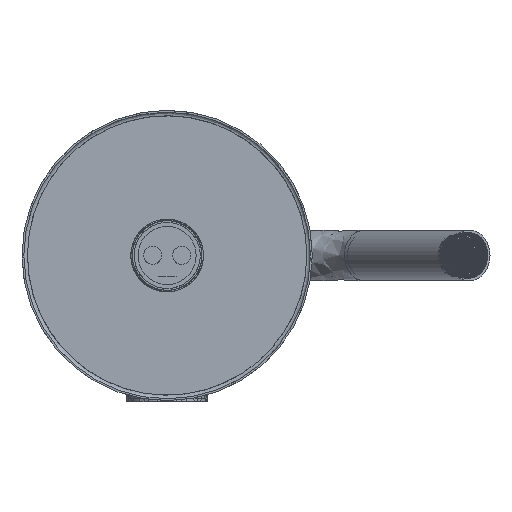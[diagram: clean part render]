
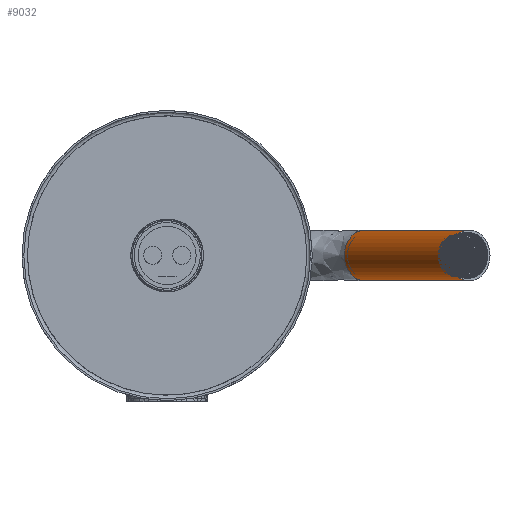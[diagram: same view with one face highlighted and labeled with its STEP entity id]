
A CAD part, front view. The second image highlights one B-rep face of the part: STEP entity #9032.
In plain terms, the highlighted cylindrical face has radius 14 mm (diameter 28 mm), a full revolution.
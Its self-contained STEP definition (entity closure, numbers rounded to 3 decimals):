
#6450 = CARTESIAN_POINT ( 'NONE',  ( 109.149, 1165.115, 0. ) ) ;
#7895 = DIRECTION ( 'NONE',  ( 0.574, -0.819, 0. ) ) ;
#8221 = CIRCLE ( 'NONE', #61930, 14. ) ;
#9032 = ADVANCED_FACE ( 'NONE', ( #15140, #65069 ), #15619, .T. ) ;
#15140 = FACE_OUTER_BOUND ( 'NONE', #79651, .T. ) ;
#15619 = CYLINDRICAL_SURFACE ( 'NONE', #33384, 14. ) ;
#20291 = CARTESIAN_POINT ( 'NONE',  ( 166.507, 1083.199, 0. ) ) ;
#23671 = VERTEX_POINT ( 'NONE', #52996 ) ;
#27976 = DIRECTION ( 'NONE',  ( 0.819, 0.574, 0. ) ) ;
#30035 = DIRECTION ( 'NONE',  ( 0.819, 0.574, 0. ) ) ;
#33384 = AXIS2_PLACEMENT_3D ( 'NONE', #6450, #7895, #30035 ) ;
#47726 = EDGE_CURVE ( 'NONE', #23671, #23671, #8221, .T. ) ;
#48218 = EDGE_CURVE ( 'NONE', #82331, #82331, #66575, .T. ) ;
#49634 = DIRECTION ( 'NONE',  ( -0.574, 0.819, 0. ) ) ;
#52996 = CARTESIAN_POINT ( 'NONE',  ( 177.975, 1091.229, 0. ) ) ;
#61930 = AXIS2_PLACEMENT_3D ( 'NONE', #20291, #49634, #27976 ) ;
#63492 = AXIS2_PLACEMENT_3D ( 'NONE', #85324, #84833, #78102 ) ;
#65069 = FACE_OUTER_BOUND ( 'NONE', #86013, .T. ) ;
#66575 = CIRCLE ( 'NONE', #63492, 14. ) ;
#69980 = ORIENTED_EDGE ( 'NONE', *, *, #48218, .F. ) ;
#75073 = CARTESIAN_POINT ( 'NONE',  ( 120.617, 1173.145, 0. ) ) ;
#78102 = DIRECTION ( 'NONE',  ( 0.819, 0.574, 0. ) ) ;
#78592 = ORIENTED_EDGE ( 'NONE', *, *, #47726, .T. ) ;
#79651 = EDGE_LOOP ( 'NONE', ( #78592 ) ) ;
#82331 = VERTEX_POINT ( 'NONE', #75073 ) ;
#84833 = DIRECTION ( 'NONE',  ( -0.574, 0.819, 0. ) ) ;
#85324 = CARTESIAN_POINT ( 'NONE',  ( 109.149, 1165.115, 0. ) ) ;
#86013 = EDGE_LOOP ( 'NONE', ( #69980 ) ) ;
